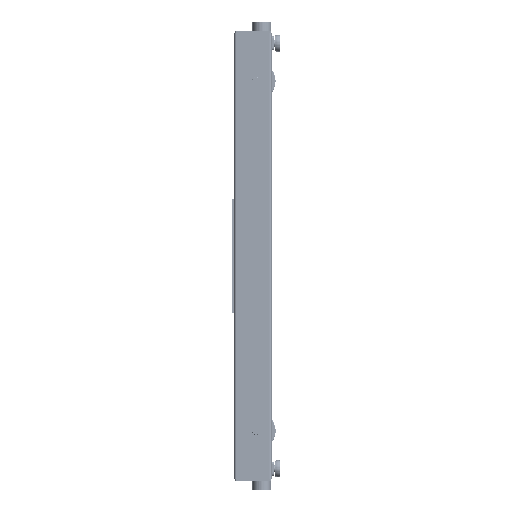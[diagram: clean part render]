
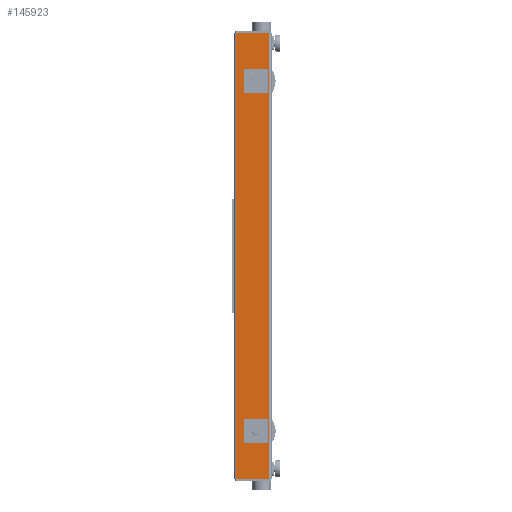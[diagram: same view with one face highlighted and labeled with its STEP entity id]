
A CAD part, left-side view. The second image highlights one B-rep face of the part: STEP entity #145923.
In plain terms, the highlighted planar face has unit normal (-1, 0, 0).
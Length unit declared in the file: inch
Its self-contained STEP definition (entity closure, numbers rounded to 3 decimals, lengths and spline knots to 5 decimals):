
#4839 = ORIENTED_EDGE ( 'NONE', *, *, #40957, .T. ) ;
#5287 = LINE ( 'NONE', #115012, #143065 ) ;
#5733 = PLANE ( 'NONE',  #105243 ) ;
#7209 = EDGE_CURVE ( 'NONE', #73380, #110903, #41628, .T. ) ;
#9845 = VECTOR ( 'NONE', #56331, 39.37008 ) ;
#10293 = DIRECTION ( 'NONE',  ( 0., 1., 0. ) ) ;
#18063 = EDGE_CURVE ( 'NONE', #170804, #172705, #5287, .T. ) ;
#18682 = FACE_BOUND ( 'NONE', #89761, .T. ) ;
#19106 = DIRECTION ( 'NONE',  ( 1., 0., 0. ) ) ;
#24699 = EDGE_CURVE ( 'NONE', #111686, #33519, #166346, .T. ) ;
#25357 = CARTESIAN_POINT ( 'NONE',  ( 0., 3.335, 37.00025 ) ) ;
#32245 = ORIENTED_EDGE ( 'NONE', *, *, #152035, .T. ) ;
#33519 = VERTEX_POINT ( 'NONE', #82327 ) ;
#40957 = EDGE_CURVE ( 'NONE', #133627, #101595, #72084, .T. ) ;
#41628 = LINE ( 'NONE', #170545, #9845 ) ;
#44862 = CARTESIAN_POINT ( 'NONE',  ( 0., 3.335, -36.99975 ) ) ;
#48514 = DIRECTION ( 'NONE',  ( 1., 0., 0. ) ) ;
#51784 = VECTOR ( 'NONE', #162866, 39.37008 ) ;
#54264 = EDGE_LOOP ( 'NONE', ( #32245, #4839 ) ) ;
#56331 = DIRECTION ( 'NONE',  ( 0., -1., 0. ) ) ;
#59486 = VECTOR ( 'NONE', #146788, 39.37008 ) ;
#60314 = CARTESIAN_POINT ( 'NONE',  ( 0., 7.5, -47.21875 ) ) ;
#61458 = DIRECTION ( 'NONE',  ( 0., 1., 0. ) ) ;
#64696 = CARTESIAN_POINT ( 'NONE',  ( 0., 0.5, 47.21875 ) ) ;
#65911 = DIRECTION ( 'NONE',  ( 0., 1., 0. ) ) ;
#69793 = CARTESIAN_POINT ( 'NONE',  ( 0., 3.335, -36.99975 ) ) ;
#72084 = CIRCLE ( 'NONE', #86807, 0.886 ) ;
#73380 = VERTEX_POINT ( 'NONE', #60314 ) ;
#78799 = EDGE_LOOP ( 'NONE', ( #105820, #120169, #163658, #89837 ) ) ;
#80883 = ORIENTED_EDGE ( 'NONE', *, *, #149676, .T. ) ;
#82327 = CARTESIAN_POINT ( 'NONE',  ( 0., 3.335, 37.88625 ) ) ;
#86807 = AXIS2_PLACEMENT_3D ( 'NONE', #44862, #48514, #133245 ) ;
#86926 = AXIS2_PLACEMENT_3D ( 'NONE', #25357, #135917, #65911 ) ;
#87865 = CARTESIAN_POINT ( 'NONE',  ( 0., 0.5, 47.21875 ) ) ;
#89761 = EDGE_LOOP ( 'NONE', ( #164917, #80883 ) ) ;
#89837 = ORIENTED_EDGE ( 'NONE', *, *, #96325, .T. ) ;
#90527 = FACE_OUTER_BOUND ( 'NONE', #78799, .T. ) ;
#92374 = FACE_BOUND ( 'NONE', #54264, .T. ) ;
#93295 = DIRECTION ( 'NONE',  ( 1., 0., 0. ) ) ;
#94689 = CARTESIAN_POINT ( 'NONE',  ( 0., 3.335, -36.11375 ) ) ;
#96319 = CARTESIAN_POINT ( 'NONE',  ( 0., 0.5, -47.21875 ) ) ;
#96325 = EDGE_CURVE ( 'NONE', #170804, #73380, #161944, .T. ) ;
#101454 = AXIS2_PLACEMENT_3D ( 'NONE', #145304, #19106, #61458 ) ;
#101595 = VERTEX_POINT ( 'NONE', #120625 ) ;
#105243 = AXIS2_PLACEMENT_3D ( 'NONE', #64696, #93295, #10293 ) ;
#105820 = ORIENTED_EDGE ( 'NONE', *, *, #7209, .T. ) ;
#106678 = CARTESIAN_POINT ( 'NONE',  ( 0., 7.5, 47.21875 ) ) ;
#107933 = AXIS2_PLACEMENT_3D ( 'NONE', #69793, #112174, #150921 ) ;
#110903 = VERTEX_POINT ( 'NONE', #96319 ) ;
#111686 = VERTEX_POINT ( 'NONE', #168933 ) ;
#112174 = DIRECTION ( 'NONE',  ( 1., 0., 0. ) ) ;
#113124 = CARTESIAN_POINT ( 'NONE',  ( 0., 7.5, 47.21875 ) ) ;
#115012 = CARTESIAN_POINT ( 'NONE',  ( 0., 0.5, 47.21875 ) ) ;
#116753 = CIRCLE ( 'NONE', #107933, 0.886 ) ;
#120169 = ORIENTED_EDGE ( 'NONE', *, *, #173601, .F. ) ;
#120625 = CARTESIAN_POINT ( 'NONE',  ( 0., 3.335, -37.88575 ) ) ;
#128014 = CIRCLE ( 'NONE', #101454, 0.886 ) ;
#133245 = DIRECTION ( 'NONE',  ( 0., 1., 0. ) ) ;
#133627 = VERTEX_POINT ( 'NONE', #94689 ) ;
#135917 = DIRECTION ( 'NONE',  ( 1., 0., 0. ) ) ;
#143065 = VECTOR ( 'NONE', #171149, 39.37008 ) ;
#143176 = LINE ( 'NONE', #87865, #59486 ) ;
#145304 = CARTESIAN_POINT ( 'NONE',  ( 0., 3.335, 37.00025 ) ) ;
#145923 = ADVANCED_FACE ( 'NONE', ( #18682, #92374, #90527 ), #5733, .F. ) ;
#146788 = DIRECTION ( 'NONE',  ( 0., 0., -1. ) ) ;
#149676 = EDGE_CURVE ( 'NONE', #33519, #111686, #128014, .T. ) ;
#150921 = DIRECTION ( 'NONE',  ( 0., 1., 0. ) ) ;
#152035 = EDGE_CURVE ( 'NONE', #101595, #133627, #116753, .T. ) ;
#161944 = LINE ( 'NONE', #106678, #51784 ) ;
#162866 = DIRECTION ( 'NONE',  ( 0., 0., -1. ) ) ;
#163658 = ORIENTED_EDGE ( 'NONE', *, *, #18063, .F. ) ;
#164598 = CARTESIAN_POINT ( 'NONE',  ( 0., 0.5, 47.21875 ) ) ;
#164917 = ORIENTED_EDGE ( 'NONE', *, *, #24699, .T. ) ;
#166346 = CIRCLE ( 'NONE', #86926, 0.886 ) ;
#168933 = CARTESIAN_POINT ( 'NONE',  ( 0., 3.335, 36.11425 ) ) ;
#170545 = CARTESIAN_POINT ( 'NONE',  ( 0., 0.5, -47.21875 ) ) ;
#170804 = VERTEX_POINT ( 'NONE', #113124 ) ;
#171149 = DIRECTION ( 'NONE',  ( 0., -1., 0. ) ) ;
#172705 = VERTEX_POINT ( 'NONE', #164598 ) ;
#173601 = EDGE_CURVE ( 'NONE', #172705, #110903, #143176, .T. ) ;
